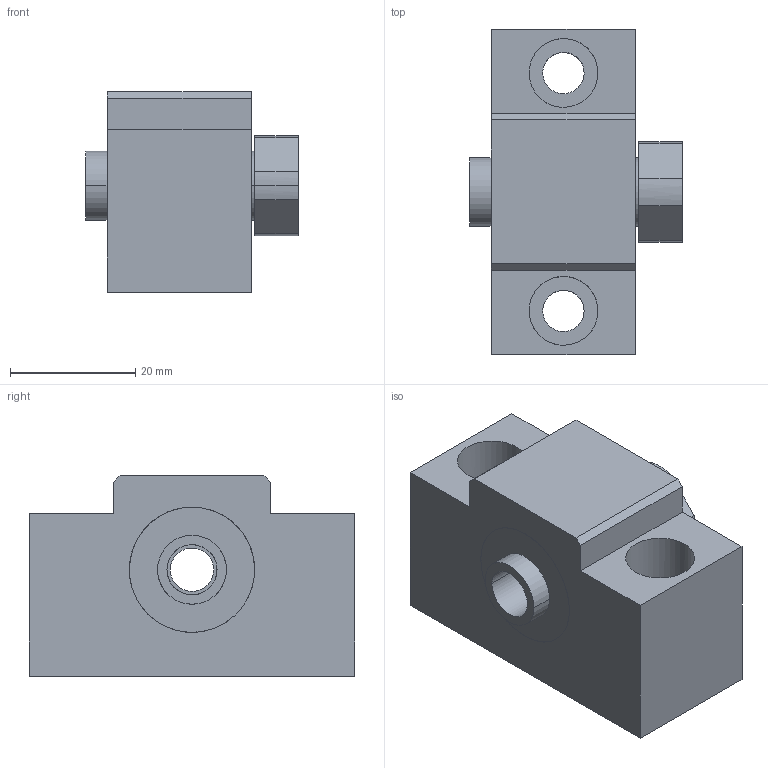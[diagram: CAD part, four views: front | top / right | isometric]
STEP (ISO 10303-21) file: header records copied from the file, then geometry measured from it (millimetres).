
FILE_DESCRIPTION(('CATIA V5 STEP Exchange'),'2;1');
FILE_NAME('D:\서포트 완성도면\EK\EK8.stp','2014-03-24T10:10:35+00:00',('none'),('none'),'CATIA Version 5 Release 18 GA (IN-10)','CATIA V5 STEP AP203','none');
FILE_SCHEMA(('CONFIG_CONTROL_DESIGN'));
Length unit declared in the file: millimetre
Products named in the file (1): EK8
Assembly tree (4 placements, depth 2):
  EK8
    #56
    #1459
    #1722
    #1985
Bounding box: 34 x 52 x 32 mm (x, y, z)
Volume: 31294.3 mm3; surface area: 10411 mm2
Topology: 4 solids, 4 shells, 59 faces, 138 edges, 92 vertices
Faces by surface type: cylinder 32, plane 27
Entity records: 2463 total; most frequent: CARTESIAN_POINT 1075, ORIENTED_EDGE 276, DIRECTION 213, EDGE_CURVE 138, VERTEX_POINT 92, AXIS2_PLACEMENT_3D 78, EDGE_LOOP 76, VECTOR 74
